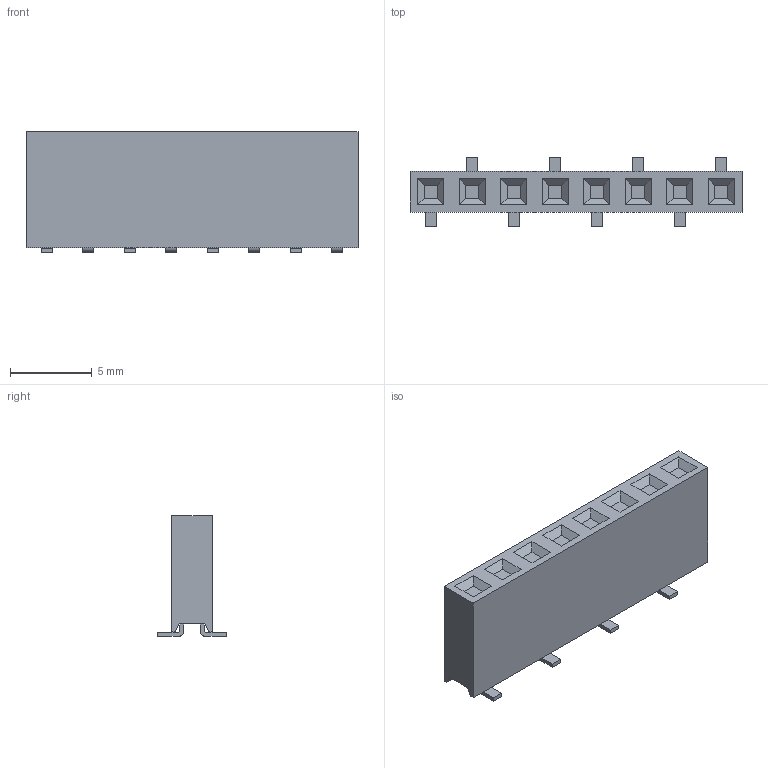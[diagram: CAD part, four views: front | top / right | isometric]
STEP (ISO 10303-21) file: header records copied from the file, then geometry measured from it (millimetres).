
FILE_DESCRIPTION (( 'STEP AP214' ), '1' );
FILE_NAME ('2043-1X08G00DAT.STEP', '2020-08-25T06:22:58', ( '' ), ( '' ), 'SwSTEP 2.0', 'SolidWorks 2011', '' );
FILE_SCHEMA (( 'AUTOMOTIVE_DESIGN' ));
Length unit declared in the file: millimetre
Products named in the file (3): 2043-Pin-D; 2043-2X05B-D; 2043-1X08G00DAT
Assembly tree (9 placements, depth 2):
  2043-1X08G00DAT
    2043-Pin-D  x8
    2043-2X05B-D
Bounding box: 20.32 x 4.2 x 7.4 mm (x, y, z)
Volume: 340.7 mm3; surface area: 478.3 mm2
Topology: 9 solids, 9 shells, 130 faces, 312 edges, 208 vertices
Faces by surface type: plane 114, cylinder 16
Entity records: 1988 total; most frequent: CARTESIAN_POINT 312, DIRECTION 292, ORIENTED_EDGE 288, EDGE_CURVE 144, LINE 140, VECTOR 140, VERTEX_POINT 96, AXIS2_PLACEMENT_3D 76
